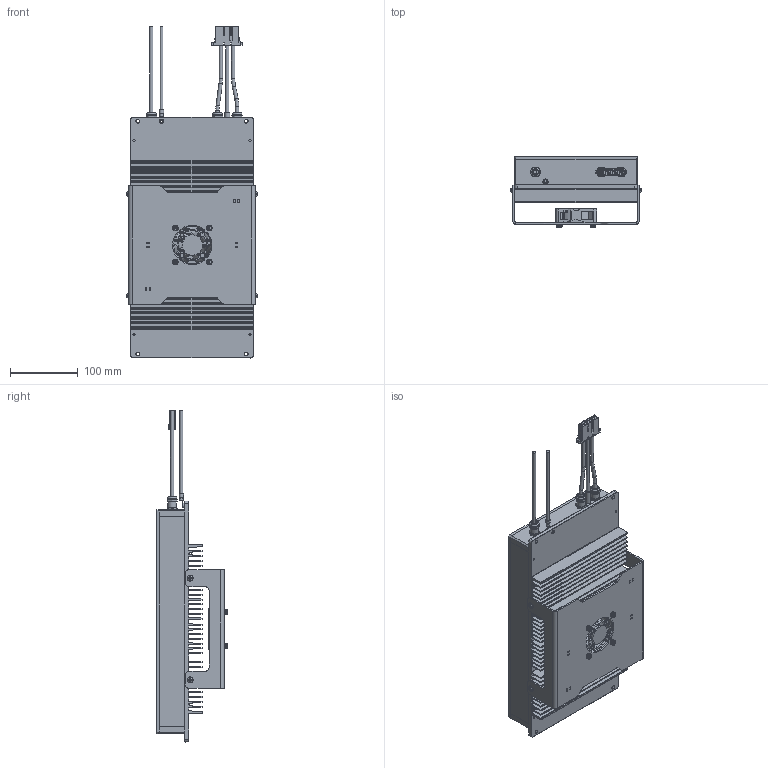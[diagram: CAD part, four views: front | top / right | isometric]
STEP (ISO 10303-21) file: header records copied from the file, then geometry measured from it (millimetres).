
FILE_DESCRIPTION(/* description */ (''),/* implementation_level */ '2;1');
FILE_NAME(/* name */ 'G:\06_WPT_코일패드\[ TX COIL PAD ]\[ TWC-2500W-A-TXCOIL-FIN-FAN ]\[ 고객도면 STP,IGS ]\TWC-2500W-A-TXCOIL-FIN-FAN.stp',/* time_stamp */ '2023-08-21T17:58:16+09:00',/* author */ ('jjang'),/* organization */ (''),/* preprocessor_version */ 'ST-DEVELOPER v18.1',/* originating_system */ 'Autodesk Inventor 2021',/* authorisation */ '');
FILE_SCHEMA (('AUTOMOTIVE_DESIGN { 1 0 10303 214 3 1 1 }'));
Products named in the file (1): TWC-2500W-A-TXCOIL-FIN-FAN_2023.04.28_Shrinkwrap_1
Bounding box: 192.1 x 103.73 x 489.35 mm (x, y, z)
Volume: 1366454.3 mm3; surface area: 670376.9 mm2
Topology: 2 solids, 2 shells, 3249 faces, 8798 edges, 5833 vertices
Faces by surface type: plane 1968, bspline 594, cylinder 568, torus 103, cone 9, sphere 7
Full cylindrical faces by diameter (mm): 0.245 x3, 0.29 x3, 0.9 x2, 3.182 x3, 3.3 x4, 3.6 x1, 3.8 x4, 4 x13, 4.2 x1, 4.3 x5, 4.4 x4, 4.9 x2, 5 x7, 5.2 x4, 5.4 x4, 5.6 x1, 6 x2, 6.5 x1, 7 x3, 7.084 x4, 7.6 x1, 7.636 x3, 7.8 x4, 8.3 x1, 8.591 x3, 8.8 x4, 10 x1, 12.727 x3, 14 x6, 22.004 x1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
Entity records: 113605 total; most frequent: CARTESIAN_POINT 31446, ORIENTED_EDGE 17584, DIRECTION 14359, EDGE_CURVE 8792, VERTEX_POINT 5833, LINE 5787, VECTOR 5787, AXIS2_PLACEMENT_3D 4286
